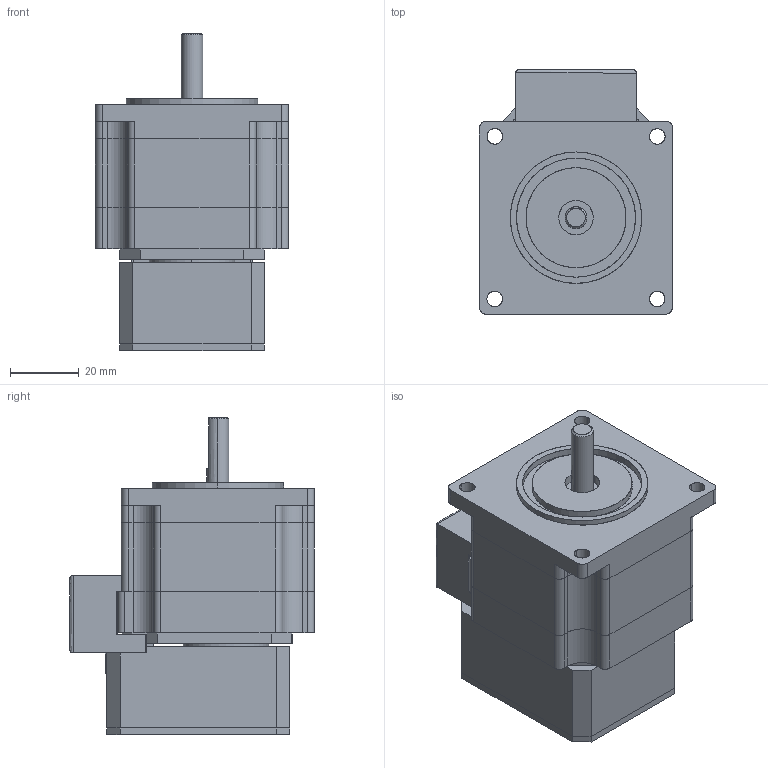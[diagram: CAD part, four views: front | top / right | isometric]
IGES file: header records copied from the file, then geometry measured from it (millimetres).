
Start section: SolidWorks IGES file using analytic representation for surfaces
Global section: file name: C:\Users\render\Desktop\Uli\CM1-X-23S30.IGS; native system: SolidWorks 2009; preprocessor: SolidWorks 2009; author: render; date: 100105.115232; units: millimetre
Bounding box: 56.02 x 71.02 x 92.15 mm (x, y, z)
Surface area: 58853.6 mm2 (no closed solid volume)
Topology: 0 solids, 0 shells, 762 faces, 7320 edges, 7320 vertices
Faces by surface type: bspline 577, revolution 185
